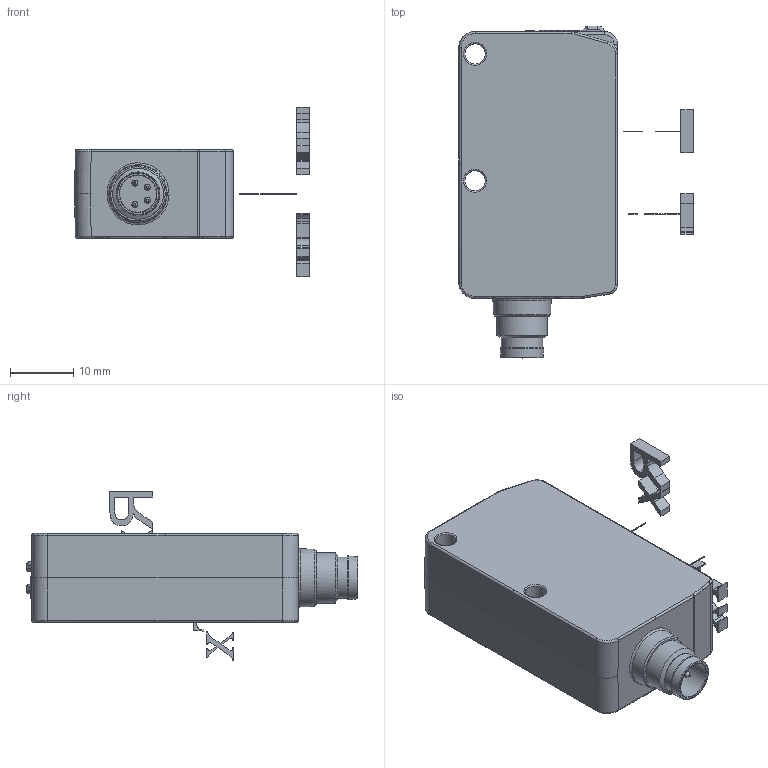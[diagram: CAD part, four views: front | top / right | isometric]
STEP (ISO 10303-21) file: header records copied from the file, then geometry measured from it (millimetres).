
FILE_DESCRIPTION(/* description */ (''),/* implementation_level */ '2;1');
FILE_NAME(/* name */ 'DSD-0141.stp',/* time_stamp */ '2020-09-22T09:11:34+02:00',/* author */ (''),/* organization */ (''),/* preprocessor_version */ 'ST-DEVELOPER v16.7',/* originating_system */ 'SIEMENS PLM Software NX 12.0',/* authorisation */ '');
FILE_SCHEMA (('AUTOMOTIVE_DESIGN { 1 0 10303 214 3 1 1 1 }'));
Length unit declared in the file: millimetre
Products named in the file (1): MBra20D017FA1szm
Bounding box: 37 x 52.3 x 26.68 mm (x, y, z)
Volume: 14984.5 mm3; surface area: 5229.2 mm2
Topology: 9 solids, 9 shells, 466 faces, 1148 edges, 715 vertices
Faces by surface type: bspline 459, plane 5, extrusion 2
Entity records: 19448 total; most frequent: CARTESIAN_POINT 9804, ORIENTED_EDGE 2190, EDGE_CURVE 1095, VERTEX_POINT 715, B_SPLINE_CURVE_WITH_KNOTS 707, EDGE_LOOP 540, ADVANCED_FACE 466, FACE_OUTER_BOUND 404
